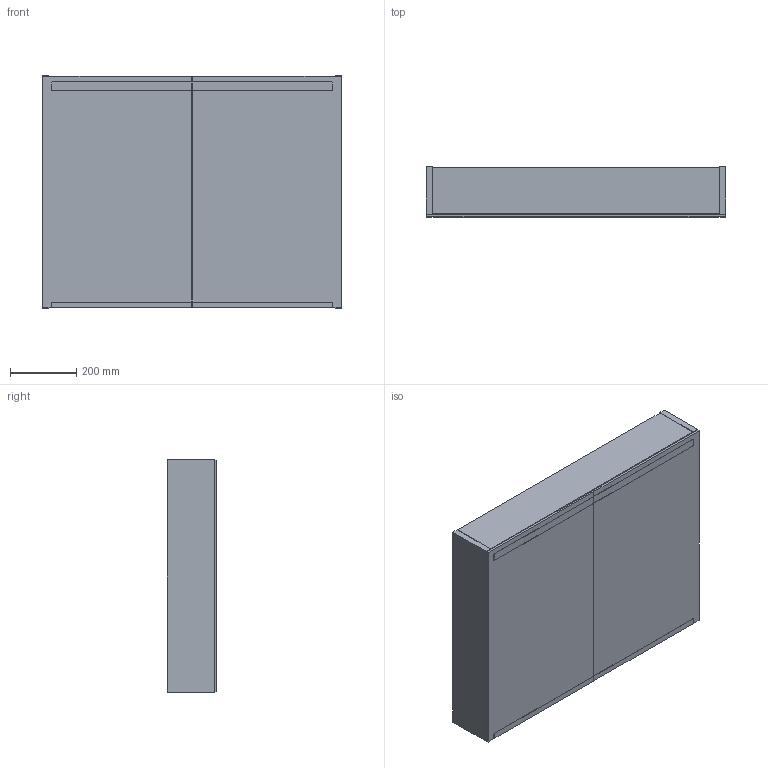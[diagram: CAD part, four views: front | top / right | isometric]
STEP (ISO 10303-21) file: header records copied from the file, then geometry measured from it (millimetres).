
FILE_DESCRIPTION(/* description */ (''),/* implementation_level */ '2;1');
FILE_NAME(/* name */ 'C:\Planerdaten\Export PLA\500.583.00.1\stp\500583.stp',/* time_stamp */ '2020-01-13T15:47:41+01:00',/* author */ ('JANAN'),/* organization */ (''),/* preprocessor_version */ 'ST-DEVELOPER v16.13',/* originating_system */ 'Autodesk Inventor 2018',/* authorisation */ '');
FILE_SCHEMA (('AUTOMOTIVE_DESIGN { 1 0 10303 214 3 1 1 }'));
Length unit declared in the file: millimetre
Products named in the file (1): SpglSchrk Ge+Opt B90 m/Bel 2-Tür
Bounding box: 900 x 150 x 700 mm (x, y, z)
Volume: 17780126 mm3; surface area: 4010538.5 mm2
Topology: 3 solids, 5 shells, 84 faces, 222 edges, 148 vertices
Faces by surface type: plane 78, cylinder 6
Entity records: 2697 total; most frequent: CARTESIAN_POINT 455, ORIENTED_EDGE 444, DIRECTION 404, EDGE_CURVE 222, LINE 210, VECTOR 210, VERTEX_POINT 148, AXIS2_PLACEMENT_3D 97
